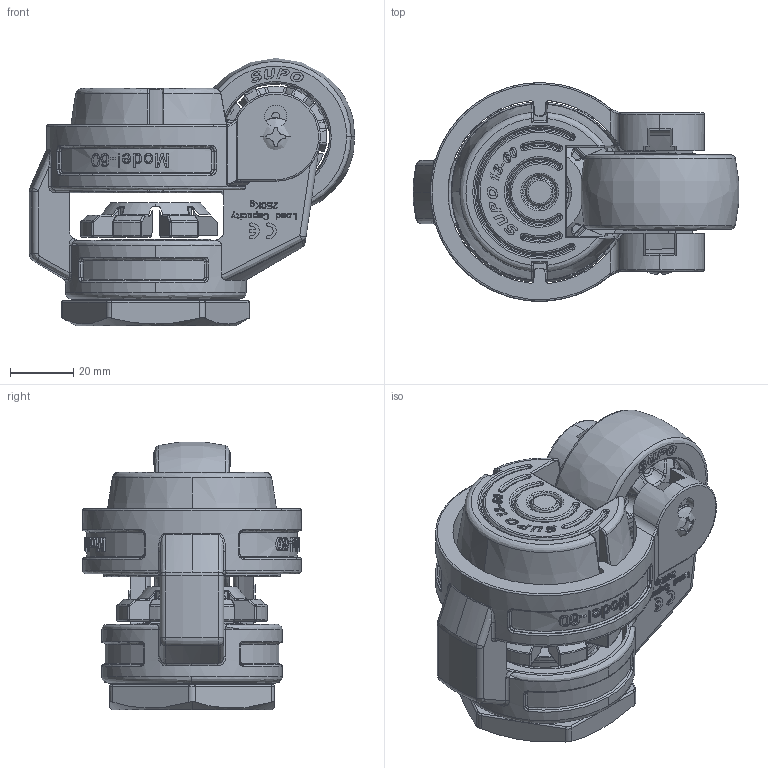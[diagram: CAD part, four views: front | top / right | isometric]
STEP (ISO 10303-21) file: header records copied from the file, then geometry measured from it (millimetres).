
FILE_DESCRIPTION (( 'STEP AP214' ), '1' );
FILE_NAME ('HT13-03-60S-643.STEP', '2025-10-01T09:45:52', ( '' ), ( '' ), 'SwSTEP 2.0', 'SolidWorks 2022', '' );
FILE_SCHEMA (( 'AUTOMOTIVE_DESIGN' ));
Length unit declared in the file: millimetre
Products named in the file (1): HT13-03-60S-643
Bounding box: 102.69 x 68.97 x 84.56 mm (x, y, z)
Surface area: 55098.8 mm2 (no closed solid volume)
Topology: 0 solids, 32 shells, 1789 faces, 6221 edges, 4207 vertices
Faces by surface type: bspline 872, plane 596, cylinder 255, cone 66
Entity records: 108192 total; most frequent: CARTESIAN_POINT 44540, ORIENTED_EDGE 10141, DIRECTION 6234, EDGE_CURVE 6107, VERTEX_POINT 4207, LINE 2982, VECTOR 2982, B_SPLINE_CURVE_WITH_KNOTS 1951
